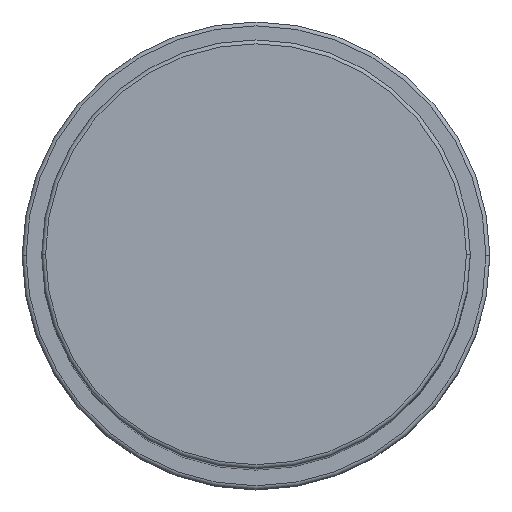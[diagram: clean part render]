
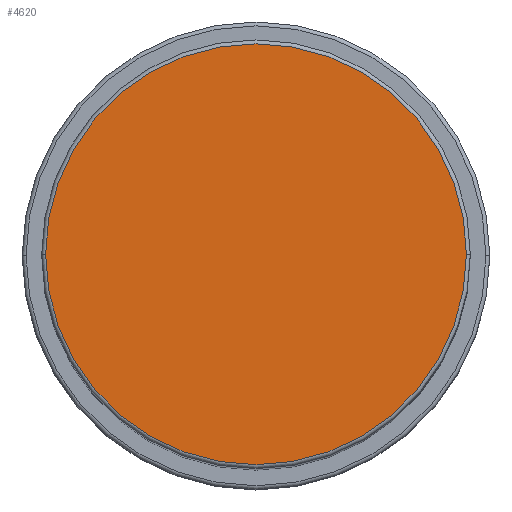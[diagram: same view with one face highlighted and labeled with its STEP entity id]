
A CAD part, top view. The second image highlights one B-rep face of the part: STEP entity #4620.
In plain terms, the highlighted planar face has unit normal (0, 0, 1).
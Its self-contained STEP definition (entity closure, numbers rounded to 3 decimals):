
#8 = CARTESIAN_POINT ( 'NONE',  ( 0., 0., 128. ) ) ;
#22 = PLANE ( 'NONE',  #1216 ) ;
#386 = DIRECTION ( 'NONE',  ( 0., 0., 1. ) ) ;
#399 = CARTESIAN_POINT ( 'NONE',  ( 0., 0., 128. ) ) ;
#902 = CARTESIAN_POINT ( 'NONE',  ( 27., 0., 128. ) ) ;
#1161 = DIRECTION ( 'NONE',  ( 1., 0., 0. ) ) ;
#1216 = AXIS2_PLACEMENT_3D ( 'NONE', #8, #386, #3443 ) ;
#1289 = CIRCLE ( 'NONE', #4240, 27. ) ;
#1305 = VERTEX_POINT ( 'NONE', #902 ) ;
#1475 = CIRCLE ( 'NONE', #4314, 27. ) ;
#2147 = FACE_OUTER_BOUND ( 'NONE', #3260, .T. ) ;
#2262 = ORIENTED_EDGE ( 'NONE', *, *, #3543, .T. ) ;
#2682 = ORIENTED_EDGE ( 'NONE', *, *, #4203, .T. ) ;
#3017 = CARTESIAN_POINT ( 'NONE',  ( -27., 0., 128. ) ) ;
#3069 = DIRECTION ( 'NONE',  ( 0., 0., 1. ) ) ;
#3224 = VERTEX_POINT ( 'NONE', #3017 ) ;
#3260 = EDGE_LOOP ( 'NONE', ( #2262, #2682 ) ) ;
#3443 = DIRECTION ( 'NONE',  ( 1., 0., 0. ) ) ;
#3497 = DIRECTION ( 'NONE',  ( 1., 0., 0. ) ) ;
#3543 = EDGE_CURVE ( 'NONE', #1305, #3224, #1289, .T. ) ;
#4203 = EDGE_CURVE ( 'NONE', #3224, #1305, #1475, .T. ) ;
#4240 = AXIS2_PLACEMENT_3D ( 'NONE', #4245, #4297, #3497 ) ;
#4245 = CARTESIAN_POINT ( 'NONE',  ( 0., 0., 128. ) ) ;
#4297 = DIRECTION ( 'NONE',  ( 0., 0., 1. ) ) ;
#4314 = AXIS2_PLACEMENT_3D ( 'NONE', #399, #3069, #1161 ) ;
#4620 = ADVANCED_FACE ( 'NONE', ( #2147 ), #22, .T. ) ;
